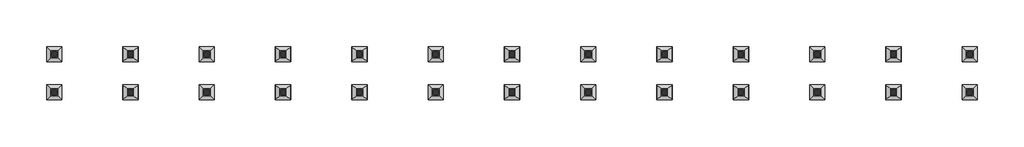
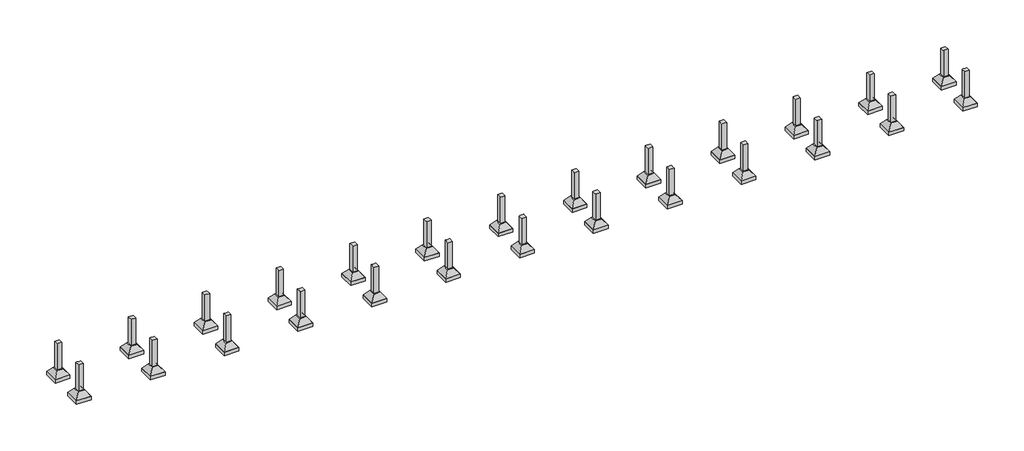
# One storey: 26 columns, 26 fasteners.
"""IFC4 building model written with IfcOpenShell, lengths in millimetres."""

from ifc_helpers import new_model, si_unit, origin, place, context, project, spatial, faceted_brep, transform, mapped, element, save
from components import s1_263c41ab

model = new_model("IFC4")

# Units and contexts
model_context = context("Model", 3, world=origin())
ifc_project = project(units=[si_unit("LENGTHUNIT", "METRE", prefix="MILLI")], contexts=[model_context])

# Site, building, storey
site = spatial("IfcSite", under=ifc_project)
building = spatial("IfcBuilding", under=site)
storey = spatial("IfcBuildingStorey", under=building, Name="FUNDAÇÃO", Elevation=0.0)

# Columns
placement = place(None, origin())
element("IfcColumn", 1, ObjectType="TQS - Pilar retangular : 25,0x25,0", at=placement, inside=storey, context=model_context, shape_type="Brep", body=[
    faceted_brep([(-3786.795675, 1437.2017038, 0.0), (-3786.795675, 1187.2017038, 0.0), (-4036.795675, 1187.2017038, 0.0), (-4036.795675, 1437.2017038, 0.0), (-3786.795675, 1437.2017038, 1500.0), (-3786.795675, 1387.2017038, 1500.0), (-3786.795675, 1237.2017038, 1500.0), (-3786.795675, 1187.2017038, 1500.0), (-3836.795675, 1187.2017038, 1500.0), (-3986.795675, 1187.2017038, 1500.0), (-4036.795675, 1187.2017038, 1500.0), (-4036.795675, 1437.2017038, 1500.0)], [[[0, 1, 2, 3]], [[4, 5, 6, 7, 1, 0]], [[7, 8, 9, 10, 2, 1]], [[10, 11, 3, 2]], [[11, 4, 0, 3]], [[4, 11, 10, 9, 8, 7, 6, 5]]]),
])
element("IfcColumn", 2, ObjectType="TQS - Pilar retangular : 25,0x25,0", at=placement, inside=storey, context=model_context, shape_type="Brep", body=[
    faceted_brep([(-3786.795675, -562.7982962, 0.0), (-3786.795675, -812.7982962, 0.0), (-4036.795675, -812.7982962, 0.0), (-4036.795675, -562.7982962, 0.0), (-3786.795675, -562.7982962, 1500.0), (-3786.795675, -612.7982962, 1500.0), (-3786.795675, -762.7982962, 1500.0), (-3786.795675, -812.7982962, 1500.0), (-4036.795675, -812.7982962, 1500.0), (-4036.795675, -562.7982962, 1500.0), (-3986.795675, -562.7982962, 1500.0), (-3836.795675, -562.7982962, 1500.0)], [[[0, 1, 2, 3]], [[4, 5, 6, 7, 1, 0]], [[7, 8, 2, 1]], [[8, 9, 3, 2]], [[9, 10, 11, 4, 0, 3]], [[4, 11, 10, 9, 8, 7, 6, 5]]]),
])
element("IfcColumn", 3, ObjectType="TQS - Pilar retangular : 25,0x25,0", at=placement, inside=storey, context=model_context, shape_type="Brep", body=[
    faceted_brep([(213.204325, 1437.2017038, 0.0), (213.204325, 1187.2017038, 0.0), (-36.795675, 1187.2017038, 0.0), (-36.795675, 1437.2017038, 0.0), (213.204325, 1437.2017038, 1500.0), (213.204325, 1387.2017038, 1500.0), (213.204325, 1237.2017038, 1500.0), (213.204325, 1187.2017038, 1500.0), (163.204325, 1187.2017038, 1500.0), (13.204325, 1187.2017038, 1500.0), (-36.795675, 1187.2017038, 1500.0), (-36.795675, 1237.2017038, 1500.0), (-36.795675, 1387.2017038, 1500.0), (-36.795675, 1437.2017038, 1500.0)], [[[0, 1, 2, 3]], [[4, 5, 6, 7, 1, 0]], [[7, 8, 9, 10, 2, 1]], [[10, 11, 12, 13, 3, 2]], [[13, 4, 0, 3]], [[4, 13, 12, 11, 10, 9, 8, 7, 6, 5]]]),
])
element("IfcColumn", 4, ObjectType="TQS - Pilar retangular : 25,0x25,0", at=placement, inside=storey, context=model_context, shape_type="Brep", body=[
    faceted_brep([(213.204325, -562.7982962, 0.0), (213.204325, -812.7982962, 0.0), (-36.795675, -812.7982962, 0.0), (-36.795675, -562.7982962, 0.0), (213.204325, -562.7982962, 1500.0), (213.204325, -612.7982962, 1500.0), (213.204325, -762.7982962, 1500.0), (213.204325, -812.7982962, 1500.0), (-36.795675, -812.7982962, 1500.0), (-36.795675, -762.7982962, 1500.0), (-36.795675, -612.7982962, 1500.0), (-36.795675, -562.7982962, 1500.0), (13.204325, -562.7982962, 1500.0), (163.204325, -562.7982962, 1500.0)], [[[0, 1, 2, 3]], [[4, 5, 6, 7, 1, 0]], [[7, 8, 2, 1]], [[8, 9, 10, 11, 3, 2]], [[11, 12, 13, 4, 0, 3]], [[4, 13, 12, 11, 10, 9, 8, 7, 6, 5]]]),
])
element("IfcColumn", 5, ObjectType="TQS - Pilar retangular : 25,0x25,0", at=placement, inside=storey, context=model_context, shape_type="Brep", body=[
    faceted_brep([(4213.204325, 1437.2017038, 0.0), (4213.204325, 1187.2017038, 0.0), (3963.204325, 1187.2017038, 0.0), (3963.204325, 1437.2017038, 0.0), (4213.204325, 1437.2017038, 1500.0), (4213.204325, 1387.2017038, 1500.0), (4213.204325, 1237.2017038, 1500.0), (4213.204325, 1187.2017038, 1500.0), (4163.204325, 1187.2017038, 1500.0), (4013.204325, 1187.2017038, 1500.0), (3963.204325, 1187.2017038, 1500.0), (3963.204325, 1237.2017038, 1500.0), (3963.204325, 1387.2017038, 1500.0), (3963.204325, 1437.2017038, 1500.0)], [[[0, 1, 2, 3]], [[4, 5, 6, 7, 1, 0]], [[7, 8, 9, 10, 2, 1]], [[10, 11, 12, 13, 3, 2]], [[13, 4, 0, 3]], [[4, 13, 12, 11, 10, 9, 8, 7, 6, 5]]]),
])
element("IfcColumn", 6, ObjectType="TQS - Pilar retangular : 25,0x25,0", at=placement, inside=storey, context=model_context, shape_type="Brep", body=[
    faceted_brep([(4213.204325, -562.7982962, 0.0), (4213.204325, -812.7982962, 0.0), (3963.204325, -812.7982962, 0.0), (3963.204325, -562.7982962, 0.0), (4213.204325, -562.7982962, 1500.0), (4213.204325, -612.7982962, 1500.0), (4213.204325, -762.7982962, 1500.0), (4213.204325, -812.7982962, 1500.0), (3963.204325, -812.7982962, 1500.0), (3963.204325, -762.7982962, 1500.0), (3963.204325, -612.7982962, 1500.0), (3963.204325, -562.7982962, 1500.0), (4013.204325, -562.7982962, 1500.0), (4163.204325, -562.7982962, 1500.0)], [[[0, 1, 2, 3]], [[4, 5, 6, 7, 1, 0]], [[7, 8, 2, 1]], [[8, 9, 10, 11, 3, 2]], [[11, 12, 13, 4, 0, 3]], [[4, 13, 12, 11, 10, 9, 8, 7, 6, 5]]]),
])
element("IfcColumn", 7, ObjectType="TQS - Pilar retangular : 25,0x25,0", at=placement, inside=storey, context=model_context, shape_type="Brep", body=[
    faceted_brep([(8213.204325, 1437.2017038, 0.0), (8213.204325, 1187.2017038, 0.0), (7963.204325, 1187.2017038, 0.0), (7963.204325, 1437.2017038, 0.0), (8213.204325, 1437.2017038, 1500.0), (8213.204325, 1387.2017038, 1500.0), (8213.204325, 1237.2017038, 1500.0), (8213.204325, 1187.2017038, 1500.0), (8163.204325, 1187.2017038, 1500.0), (8013.204325, 1187.2017038, 1500.0), (7963.204325, 1187.2017038, 1500.0), (7963.204325, 1237.2017038, 1500.0), (7963.204325, 1387.2017038, 1500.0), (7963.204325, 1437.2017038, 1500.0)], [[[0, 1, 2, 3]], [[4, 5, 6, 7, 1, 0]], [[7, 8, 9, 10, 2, 1]], [[10, 11, 12, 13, 3, 2]], [[13, 4, 0, 3]], [[4, 13, 12, 11, 10, 9, 8, 7, 6, 5]]]),
])
element("IfcColumn", 8, ObjectType="TQS - Pilar retangular : 25,0x25,0", at=placement, inside=storey, context=model_context, shape_type="Brep", body=[
    faceted_brep([(8213.204325, -562.7982962, 0.0), (8213.204325, -812.7982962, 0.0), (7963.204325, -812.7982962, 0.0), (7963.204325, -562.7982962, 0.0), (8213.204325, -562.7982962, 1500.0), (8213.204325, -612.7982962, 1500.0), (8213.204325, -762.7982962, 1500.0), (8213.204325, -812.7982962, 1500.0), (7963.204325, -812.7982962, 1500.0), (7963.204325, -762.7982962, 1500.0), (7963.204325, -612.7982962, 1500.0), (7963.204325, -562.7982962, 1500.0), (8013.204325, -562.7982962, 1500.0), (8163.204325, -562.7982962, 1500.0)], [[[0, 1, 2, 3]], [[4, 5, 6, 7, 1, 0]], [[7, 8, 2, 1]], [[8, 9, 10, 11, 3, 2]], [[11, 12, 13, 4, 0, 3]], [[4, 13, 12, 11, 10, 9, 8, 7, 6, 5]]]),
])
element("IfcColumn", 9, ObjectType="TQS - Pilar retangular : 25,0x25,0", at=placement, inside=storey, context=model_context, shape_type="Brep", body=[
    faceted_brep([(12213.204325, 1437.2017038, 0.0), (12213.204325, 1187.2017038, 0.0), (11963.204325, 1187.2017038, 0.0), (11963.204325, 1437.2017038, 0.0), (12213.204325, 1437.2017038, 1500.0), (12213.204325, 1387.2017038, 1500.0), (12213.204325, 1237.2017038, 1500.0), (12213.204325, 1187.2017038, 1500.0), (12163.204325, 1187.2017038, 1500.0), (12013.204325, 1187.2017038, 1500.0), (11963.204325, 1187.2017038, 1500.0), (11963.204325, 1237.2017038, 1500.0), (11963.204325, 1387.2017038, 1500.0), (11963.204325, 1437.2017038, 1500.0)], [[[0, 1, 2, 3]], [[4, 5, 6, 7, 1, 0]], [[7, 8, 9, 10, 2, 1]], [[10, 11, 12, 13, 3, 2]], [[13, 4, 0, 3]], [[4, 13, 12, 11, 10, 9, 8, 7, 6, 5]]]),
])
element("IfcColumn", 10, ObjectType="TQS - Pilar retangular : 25,0x25,0", at=placement, inside=storey, context=model_context, shape_type="Brep", body=[
    faceted_brep([(12213.204325, -562.7982962, 0.0), (12213.204325, -812.7982962, 0.0), (11963.204325, -812.7982962, 0.0), (11963.204325, -562.7982962, 0.0), (12213.204325, -562.7982962, 1500.0), (12213.204325, -612.7982962, 1500.0), (12213.204325, -762.7982962, 1500.0), (12213.204325, -812.7982962, 1500.0), (11963.204325, -812.7982962, 1500.0), (11963.204325, -762.7982962, 1500.0), (11963.204325, -612.7982962, 1500.0), (11963.204325, -562.7982962, 1500.0), (12013.204325, -562.7982962, 1500.0), (12163.204325, -562.7982962, 1500.0)], [[[0, 1, 2, 3]], [[4, 5, 6, 7, 1, 0]], [[7, 8, 2, 1]], [[8, 9, 10, 11, 3, 2]], [[11, 12, 13, 4, 0, 3]], [[4, 13, 12, 11, 10, 9, 8, 7, 6, 5]]]),
])
element("IfcColumn", 11, ObjectType="TQS - Pilar retangular : 25,0x25,0", at=placement, inside=storey, context=model_context, shape_type="Brep", body=[
    faceted_brep([(16213.204325, 1437.2017038, 0.0), (16213.204325, 1187.2017038, 0.0), (15963.204325, 1187.2017038, 0.0), (15963.204325, 1437.2017038, 0.0), (16213.204325, 1437.2017038, 1500.0), (16213.204325, 1387.2017038, 1500.0), (16213.204325, 1237.2017038, 1500.0), (16213.204325, 1187.2017038, 1500.0), (16163.204325, 1187.2017038, 1500.0), (16013.204325, 1187.2017038, 1500.0), (15963.204325, 1187.2017038, 1500.0), (15963.204325, 1237.2017038, 1500.0), (15963.204325, 1387.2017038, 1500.0), (15963.204325, 1437.2017038, 1500.0)], [[[0, 1, 2, 3]], [[4, 5, 6, 7, 1, 0]], [[7, 8, 9, 10, 2, 1]], [[10, 11, 12, 13, 3, 2]], [[13, 4, 0, 3]], [[4, 13, 12, 11, 10, 9, 8, 7, 6, 5]]]),
])
element("IfcColumn", 12, ObjectType="TQS - Pilar retangular : 25,0x25,0", at=placement, inside=storey, context=model_context, shape_type="Brep", body=[
    faceted_brep([(16213.204325, -562.7982962, 0.0), (16213.204325, -812.7982962, 0.0), (15963.204325, -812.7982962, 0.0), (15963.204325, -562.7982962, 0.0), (16213.204325, -562.7982962, 1500.0), (16213.204325, -612.7982962, 1500.0), (16213.204325, -762.7982962, 1500.0), (16213.204325, -812.7982962, 1500.0), (15963.204325, -812.7982962, 1500.0), (15963.204325, -762.7982962, 1500.0), (15963.204325, -612.7982962, 1500.0), (15963.204325, -562.7982962, 1500.0), (16013.204325, -562.7982962, 1500.0), (16163.204325, -562.7982962, 1500.0)], [[[0, 1, 2, 3]], [[4, 5, 6, 7, 1, 0]], [[7, 8, 2, 1]], [[8, 9, 10, 11, 3, 2]], [[11, 12, 13, 4, 0, 3]], [[4, 13, 12, 11, 10, 9, 8, 7, 6, 5]]]),
])
element("IfcColumn", 13, ObjectType="TQS - Pilar retangular : 25,0x25,0", at=placement, inside=storey, context=model_context, shape_type="Brep", body=[
    faceted_brep([(20213.204325, 1437.2017038, 0.0), (20213.204325, 1187.2017038, 0.0), (19963.204325, 1187.2017038, 0.0), (19963.204325, 1437.2017038, 0.0), (20213.204325, 1437.2017038, 1500.0), (20213.204325, 1387.2017038, 1500.0), (20213.204325, 1237.2017038, 1500.0), (20213.204325, 1187.2017038, 1500.0), (20163.204325, 1187.2017038, 1500.0), (20013.204325, 1187.2017038, 1500.0), (19963.204325, 1187.2017038, 1500.0), (19963.204325, 1237.2017038, 1500.0), (19963.204325, 1387.2017038, 1500.0), (19963.204325, 1437.2017038, 1500.0)], [[[0, 1, 2, 3]], [[4, 5, 6, 7, 1, 0]], [[7, 8, 9, 10, 2, 1]], [[10, 11, 12, 13, 3, 2]], [[13, 4, 0, 3]], [[4, 13, 12, 11, 10, 9, 8, 7, 6, 5]]]),
])
element("IfcColumn", 14, ObjectType="TQS - Pilar retangular : 25,0x25,0", at=placement, inside=storey, context=model_context, shape_type="Brep", body=[
    faceted_brep([(20213.204325, -562.7982962, 0.0), (20213.204325, -812.7982962, 0.0), (19963.204325, -812.7982962, 0.0), (19963.204325, -562.7982962, 0.0), (20213.204325, -562.7982962, 1500.0), (20213.204325, -612.6028921, 1500.0), (20213.204325, -762.6030753, 1500.0), (20213.204325, -812.7982962, 1500.0), (19963.204325, -812.7982962, 1500.0), (19963.204325, -762.7982962, 1500.0), (19963.204325, -612.7982962, 1500.0), (19963.204325, -562.7982962, 1500.0), (20013.204325, -562.7982962, 1500.0), (20163.204325, -562.7982962, 1500.0)], [[[0, 1, 2, 3]], [[4, 5, 6, 7, 1, 0]], [[7, 8, 2, 1]], [[8, 9, 10, 11, 3, 2]], [[11, 12, 13, 4, 0, 3]], [[4, 13, 12, 11, 10, 9, 8, 7, 6, 5]]]),
])
element("IfcColumn", 15, ObjectType="TQS - Pilar retangular : 25,0x25,0", at=placement, inside=storey, context=model_context, shape_type="Brep", body=[
    faceted_brep([(24213.204325, 1437.2017038, 0.0), (24213.204325, 1187.2017038, 0.0), (23963.204325, 1187.2017038, 0.0), (23963.204325, 1437.2017038, 0.0), (24213.204325, 1437.2017038, 1500.0), (24213.204325, 1387.2017038, 1500.0), (24213.204325, 1237.2017038, 1500.0), (24213.204325, 1187.2017038, 1500.0), (24163.204325, 1187.2017038, 1500.0), (24013.204325, 1187.2017038, 1500.0), (23963.204325, 1187.2017038, 1500.0), (23963.204325, 1237.2017038, 1500.0), (23963.204325, 1387.2017038, 1500.0), (23963.204325, 1437.2017038, 1500.0)], [[[0, 1, 2, 3]], [[4, 5, 6, 7, 1, 0]], [[7, 8, 9, 10, 2, 1]], [[10, 11, 12, 13, 3, 2]], [[13, 4, 0, 3]], [[4, 13, 12, 11, 10, 9, 8, 7, 6, 5]]]),
])
element("IfcColumn", 16, ObjectType="TQS - Pilar retangular : 25,0x25,0", at=placement, inside=storey, context=model_context, shape_type="Brep", body=[
    faceted_brep([(24213.204325, -562.7982962, 0.0), (24213.204325, -812.7982962, 0.0), (23963.204325, -812.7982962, 0.0), (23963.204325, -562.7982962, 0.0), (24213.204325, -562.7982962, 1500.0), (24213.204325, -606.3528921, 1500.0), (24213.204325, -756.3530753, 1500.0), (24213.204325, -812.7982962, 1500.0), (23963.204325, -812.7982962, 1500.0), (23963.204325, -756.7437003, 1500.0), (23963.204325, -606.7435171, 1500.0), (23963.204325, -562.7982962, 1500.0), (24013.204325, -562.7982962, 1500.0), (24163.204325, -562.7982962, 1500.0)], [[[0, 1, 2, 3]], [[4, 5, 6, 7, 1, 0]], [[7, 8, 2, 1]], [[8, 9, 10, 11, 3, 2]], [[11, 12, 13, 4, 0, 3]], [[4, 13, 12, 11, 10, 9, 8, 7, 6, 5]]]),
])
element("IfcColumn", 17, ObjectType="TQS - Pilar retangular : 25,0x25,0", at=placement, inside=storey, context=model_context, shape_type="Brep", body=[
    faceted_brep([(28213.204325, 1437.2017038, 0.0), (28213.204325, 1187.2017038, 0.0), (27963.204325, 1187.2017038, 0.0), (27963.204325, 1437.2017038, 0.0), (28213.204325, 1437.2017038, 1500.0), (28213.204325, 1387.2017038, 1500.0), (28213.204325, 1237.2017038, 1500.0), (28213.204325, 1187.2017038, 1500.0), (28163.204325, 1187.2017038, 1500.0), (28013.204325, 1187.2017038, 1500.0), (27963.204325, 1187.2017038, 1500.0), (27963.204325, 1237.2017038, 1500.0), (27963.204325, 1387.2017038, 1500.0), (27963.204325, 1437.2017038, 1500.0)], [[[0, 1, 2, 3]], [[4, 5, 6, 7, 1, 0]], [[7, 8, 9, 10, 2, 1]], [[10, 11, 12, 13, 3, 2]], [[13, 4, 0, 3]], [[4, 13, 12, 11, 10, 9, 8, 7, 6, 5]]]),
])
element("IfcColumn", 18, ObjectType="TQS - Pilar retangular : 25,0x25,0", at=placement, inside=storey, context=model_context, shape_type="Brep", body=[
    faceted_brep([(28213.204325, -562.7982962, 0.0), (28213.204325, -812.7982962, 0.0), (27963.204325, -812.7982962, 0.0), (27963.204325, -562.7982962, 0.0), (28213.204325, -562.7982962, 1500.0), (28213.204325, -600.1028921, 1500.0), (28213.204325, -750.1030753, 1500.0), (28213.204325, -812.7982962, 1500.0), (27963.204325, -812.7982962, 1500.0), (27963.204325, -750.4937003, 1500.0), (27963.204325, -600.4935171, 1500.0), (27963.204325, -562.7982962, 1500.0), (28013.204325, -562.7982962, 1500.0), (28163.204325, -562.7982962, 1500.0)], [[[0, 1, 2, 3]], [[4, 5, 6, 7, 1, 0]], [[7, 8, 2, 1]], [[8, 9, 10, 11, 3, 2]], [[11, 12, 13, 4, 0, 3]], [[4, 13, 12, 11, 10, 9, 8, 7, 6, 5]]]),
])
element("IfcColumn", 19, ObjectType="TQS - Pilar retangular : 25,0x25,0", at=placement, inside=storey, context=model_context, shape_type="Brep", body=[
    faceted_brep([(32213.204325, 1437.2017038, 0.0), (32213.204325, 1187.2017038, 0.0), (31963.204325, 1187.2017038, 0.0), (31963.204325, 1437.2017038, 0.0), (32213.204325, 1437.2017038, 1500.0), (32213.204325, 1387.2017038, 1500.0), (32213.204325, 1237.2017038, 1500.0), (32213.204325, 1187.2017038, 1500.0), (32163.204325, 1187.2017038, 1500.0), (32013.204325, 1187.2017038, 1500.0), (31963.204325, 1187.2017038, 1500.0), (31963.204325, 1237.2017038, 1500.0), (31963.204325, 1387.2017038, 1500.0), (31963.204325, 1437.2017038, 1500.0)], [[[0, 1, 2, 3]], [[4, 5, 6, 7, 1, 0]], [[7, 8, 9, 10, 2, 1]], [[10, 11, 12, 13, 3, 2]], [[13, 4, 0, 3]], [[4, 13, 12, 11, 10, 9, 8, 7, 6, 5]]]),
])
element("IfcColumn", 20, ObjectType="TQS - Pilar retangular : 25,0x25,0", at=placement, inside=storey, context=model_context, shape_type="Brep", body=[
    faceted_brep([(32213.204325, -562.7982962, 0.0), (32213.204325, -812.7982962, 0.0), (31963.204325, -812.7982962, 0.0), (31963.204325, -562.7982962, 0.0), (32213.204325, -562.7982962, 1500.0), (32213.204325, -594.0482962, 1500.0), (32213.204325, -744.0482962, 1500.0), (32213.204325, -812.7982962, 1500.0), (31963.204325, -812.7982962, 1500.0), (31963.204325, -744.2437003, 1500.0), (31963.204325, -594.2435171, 1500.0), (31963.204325, -562.7982962, 1500.0), (32013.204325, -562.7982962, 1500.0), (32163.204325, -562.7982962, 1500.0)], [[[0, 1, 2, 3]], [[4, 5, 6, 7, 1, 0]], [[7, 8, 2, 1]], [[8, 9, 10, 11, 3, 2]], [[11, 12, 13, 4, 0, 3]], [[4, 13, 12, 11, 10, 9, 8, 7, 6, 5]]]),
])
element("IfcColumn", 21, ObjectType="TQS - Pilar retangular : 25,0x25,0", at=placement, inside=storey, context=model_context, shape_type="Brep", body=[
    faceted_brep([(36213.204325, 1437.2017038, 0.0), (36213.204325, 1187.2017038, 0.0), (35963.204325, 1187.2017038, 0.0), (35963.204325, 1437.2017038, 0.0), (36213.204325, 1437.2017038, 1500.0), (36213.204325, 1387.2017038, 1500.0), (36213.204325, 1237.2017038, 1500.0), (36213.204325, 1187.2017038, 1500.0), (36163.204325, 1187.2017038, 1500.0), (36013.204325, 1187.2017038, 1500.0), (35963.204325, 1187.2017038, 1500.0), (35963.204325, 1237.2017038, 1500.0), (35963.204325, 1387.2017038, 1500.0), (35963.204325, 1437.2017038, 1500.0)], [[[0, 1, 2, 3]], [[4, 5, 6, 7, 1, 0]], [[7, 8, 9, 10, 2, 1]], [[10, 11, 12, 13, 3, 2]], [[13, 4, 0, 3]], [[4, 13, 12, 11, 10, 9, 8, 7, 6, 5]]]),
])
element("IfcColumn", 22, ObjectType="TQS - Pilar retangular : 25,0x25,0", at=placement, inside=storey, context=model_context, shape_type="Brep", body=[
    faceted_brep([(36213.204325, -562.7982962, 0.0), (36213.204325, -812.7982962, 0.0), (35963.204325, -812.7982962, 0.0), (35963.204325, -562.7982962, 0.0), (36213.204325, -562.7982962, 1500.0), (36213.204325, -594.0482962, 1500.0), (36213.204325, -744.0482962, 1500.0), (36213.204325, -812.7982962, 1500.0), (35963.204325, -812.7982962, 1500.0), (35963.204325, -744.0482962, 1500.0), (35963.204325, -594.0482962, 1500.0), (35963.204325, -562.7982962, 1500.0), (36013.204325, -562.7982962, 1500.0), (36163.204325, -562.7982962, 1500.0)], [[[0, 1, 2, 3]], [[4, 5, 6, 7, 1, 0]], [[7, 8, 2, 1]], [[8, 9, 10, 11, 3, 2]], [[11, 12, 13, 4, 0, 3]], [[4, 13, 12, 11, 10, 9, 8, 7, 6, 5]]]),
])
element("IfcColumn", 23, ObjectType="TQS - Pilar retangular : 25,0x25,0", at=placement, inside=storey, context=model_context, shape_type="Brep", body=[
    faceted_brep([(40213.204325, 1437.2017038, 0.0), (40213.204325, 1187.2017038, 0.0), (39963.204325, 1187.2017038, 0.0), (39963.204325, 1437.2017038, 0.0), (40213.204325, 1437.2017038, 1500.0), (40213.204325, 1387.2017038, 1500.0), (40213.204325, 1237.2017038, 1500.0), (40213.204325, 1187.2017038, 1500.0), (40163.204325, 1187.2017038, 1500.0), (40013.204325, 1187.2017038, 1500.0), (39963.204325, 1187.2017038, 1500.0), (39963.204325, 1237.2017038, 1500.0), (39963.204325, 1387.2017038, 1500.0), (39963.204325, 1437.2017038, 1500.0)], [[[0, 1, 2, 3]], [[4, 5, 6, 7, 1, 0]], [[7, 8, 9, 10, 2, 1]], [[10, 11, 12, 13, 3, 2]], [[13, 4, 0, 3]], [[4, 13, 12, 11, 10, 9, 8, 7, 6, 5]]]),
])
element("IfcColumn", 24, ObjectType="TQS - Pilar retangular : 25,0x25,0", at=placement, inside=storey, context=model_context, shape_type="Brep", body=[
    faceted_brep([(40213.204325, -562.7982962, 0.0), (40213.204325, -812.7982962, 0.0), (39963.204325, -812.7982962, 0.0), (39963.204325, -562.7982962, 0.0), (40213.204325, -562.7982962, 1500.0), (40213.204325, -594.0482962, 1500.0), (40213.204325, -744.0482962, 1500.0), (40213.204325, -812.7982962, 1500.0), (39963.204325, -812.7982962, 1500.0), (39963.204325, -744.0482962, 1500.0), (39963.204325, -594.0482962, 1500.0), (39963.204325, -562.7982962, 1500.0), (40013.204325, -562.7982962, 1500.0), (40163.204325, -562.7982962, 1500.0)], [[[0, 1, 2, 3]], [[4, 5, 6, 7, 1, 0]], [[7, 8, 2, 1]], [[8, 9, 10, 11, 3, 2]], [[11, 12, 13, 4, 0, 3]], [[4, 13, 12, 11, 10, 9, 8, 7, 6, 5]]]),
])
element("IfcColumn", 25, ObjectType="TQS - Pilar retangular : 25,0x25,0", at=placement, inside=storey, context=model_context, shape_type="Brep", body=[
    faceted_brep([(44213.204325, 1437.2017038, 0.0), (44213.204325, 1187.2017038, 0.0), (43963.204325, 1187.2017038, 0.0), (43963.204325, 1437.2017038, 0.0), (44213.204325, 1437.2017038, 1500.0), (44213.204325, 1187.2017038, 1500.0), (44163.204325, 1187.2017038, 1500.0), (44013.204325, 1187.2017038, 1500.0), (43963.204325, 1187.2017038, 1500.0), (43963.204325, 1237.2017038, 1500.0), (43963.204325, 1387.2017038, 1500.0), (43963.204325, 1437.2017038, 1500.0)], [[[0, 1, 2, 3]], [[4, 5, 1, 0]], [[5, 6, 7, 8, 2, 1]], [[8, 9, 10, 11, 3, 2]], [[11, 4, 0, 3]], [[4, 11, 10, 9, 8, 7, 6, 5]]]),
])
element("IfcColumn", 26, ObjectType="TQS - Pilar retangular : 25,0x25,0", at=placement, inside=storey, context=model_context, shape_type="Brep", body=[
    faceted_brep([(44213.204325, -562.7982962, 0.0), (44213.204325, -812.7982962, 0.0), (43963.204325, -812.7982962, 0.0), (43963.204325, -562.7982962, 0.0), (44213.204325, -562.7982962, 1500.0), (44213.204325, -812.7982962, 1500.0), (43963.204325, -812.7982962, 1500.0), (43963.204325, -744.0482962, 1500.0), (43963.204325, -594.0482962, 1500.0), (43963.204325, -562.7982962, 1500.0), (44013.204325, -562.7982962, 1500.0), (44163.204325, -562.7982962, 1500.0)], [[[0, 1, 2, 3]], [[4, 5, 1, 0]], [[5, 6, 2, 1]], [[6, 7, 8, 9, 3, 2]], [[9, 10, 11, 4, 0, 3]], [[4, 11, 10, 9, 8, 7, 6, 5]]]),
])

# Fasteners
s1_shape = s1_263c41ab(model_context)
element("IfcFastener", 27, ObjectType="TQS - Sapata : S1", at=placement, inside=storey, context=model_context, shape_type="MappedRepresentation", body=[
    mapped(s1_shape, transform((-3711.795675, 1512.2017038, 0.0), x_axis=(1.0, 0.0, 0.0), y_axis=(0.0, 1.0, 0.0), z_axis=(0.0, 0.0, 1.0))),
])
element("IfcFastener", 28, ObjectType="TQS - Sapata : S10", at=placement, inside=storey, context=model_context, shape_type="MappedRepresentation", body=[
    mapped(s1_shape, transform((32288.204325, 1512.2017038, 0.0), x_axis=(1.0, 0.0, 0.0), y_axis=(0.0, 1.0, 0.0), z_axis=(0.0, 0.0, 1.0))),
])
element("IfcFastener", 29, ObjectType="TQS - Sapata : S11", at=placement, inside=storey, context=model_context, shape_type="MappedRepresentation", body=[
    mapped(s1_shape, transform((36288.204325, 1512.2017038, 0.0), x_axis=(1.0, 0.0, 0.0), y_axis=(0.0, 1.0, 0.0), z_axis=(0.0, 0.0, 1.0))),
])
element("IfcFastener", 30, ObjectType="TQS - Sapata : S12", at=placement, inside=storey, context=model_context, shape_type="MappedRepresentation", body=[
    mapped(s1_shape, transform((40288.204325, 1512.2017038, 0.0), x_axis=(1.0, 0.0, 0.0), y_axis=(0.0, 1.0, 0.0), z_axis=(0.0, 0.0, 1.0))),
])
element("IfcFastener", 31, ObjectType="TQS - Sapata : S13", at=placement, inside=storey, context=model_context, shape_type="MappedRepresentation", body=[
    mapped(s1_shape, transform((44288.204325, 1512.2017038, 0.0), x_axis=(1.0, 0.0, 0.0), y_axis=(0.0, 1.0, 0.0), z_axis=(0.0, 0.0, 1.0))),
])
element("IfcFastener", 32, ObjectType="TQS - Sapata : S14", at=placement, inside=storey, context=model_context, shape_type="MappedRepresentation", body=[
    mapped(s1_shape, transform((-3711.795675, -487.7982962, 0.0), x_axis=(1.0, 0.0, 0.0), y_axis=(0.0, 1.0, 0.0), z_axis=(0.0, 0.0, 1.0))),
])
element("IfcFastener", 33, ObjectType="TQS - Sapata : S15", at=placement, inside=storey, context=model_context, shape_type="MappedRepresentation", body=[
    mapped(s1_shape, transform((288.204325, -487.7982962, 0.0), x_axis=(1.0, 0.0, 0.0), y_axis=(0.0, 1.0, 0.0), z_axis=(0.0, 0.0, 1.0))),
])
element("IfcFastener", 34, ObjectType="TQS - Sapata : S16", at=placement, inside=storey, context=model_context, shape_type="MappedRepresentation", body=[
    mapped(s1_shape, transform((4288.204325, -487.7982962, 0.0), x_axis=(1.0, 0.0, 0.0), y_axis=(0.0, 1.0, 0.0), z_axis=(0.0, 0.0, 1.0))),
])
element("IfcFastener", 35, ObjectType="TQS - Sapata : S17", at=placement, inside=storey, context=model_context, shape_type="MappedRepresentation", body=[
    mapped(s1_shape, transform((8288.204325, -487.7982962, 0.0), x_axis=(1.0, 0.0, 0.0), y_axis=(0.0, 1.0, 0.0), z_axis=(0.0, 0.0, 1.0))),
])
element("IfcFastener", 36, ObjectType="TQS - Sapata : S18", at=placement, inside=storey, context=model_context, shape_type="MappedRepresentation", body=[
    mapped(s1_shape, transform((12288.204325, -487.7982962, 0.0), x_axis=(1.0, 0.0, 0.0), y_axis=(0.0, 1.0, 0.0), z_axis=(0.0, 0.0, 1.0))),
])
element("IfcFastener", 37, ObjectType="TQS - Sapata : S19", at=placement, inside=storey, context=model_context, shape_type="MappedRepresentation", body=[
    mapped(s1_shape, transform((16288.204325, -487.7982962, 0.0), x_axis=(1.0, 0.0, 0.0), y_axis=(0.0, 1.0, 0.0), z_axis=(0.0, 0.0, 1.0))),
])
element("IfcFastener", 38, ObjectType="TQS - Sapata : S2", at=placement, inside=storey, context=model_context, shape_type="MappedRepresentation", body=[
    mapped(s1_shape, transform((288.204325, 1512.2017038, 0.0), x_axis=(1.0, 0.0, 0.0), y_axis=(0.0, 1.0, 0.0), z_axis=(0.0, 0.0, 1.0))),
])
element("IfcFastener", 39, ObjectType="TQS - Sapata : S20", at=placement, inside=storey, context=model_context, shape_type="MappedRepresentation", body=[
    mapped(s1_shape, transform((20288.204325, -487.7982962, 0.0), x_axis=(1.0, 0.0, 0.0), y_axis=(0.0, 1.0, 0.0), z_axis=(0.0, 0.0, 1.0))),
])
element("IfcFastener", 40, ObjectType="TQS - Sapata : S21", at=placement, inside=storey, context=model_context, shape_type="MappedRepresentation", body=[
    mapped(s1_shape, transform((24288.204325, -487.7982962, 0.0), x_axis=(1.0, 0.0, 0.0), y_axis=(0.0, 1.0, 0.0), z_axis=(0.0, 0.0, 1.0))),
])
element("IfcFastener", 41, ObjectType="TQS - Sapata : S22", at=placement, inside=storey, context=model_context, shape_type="MappedRepresentation", body=[
    mapped(s1_shape, transform((28288.204325, -487.7982962, 0.0), x_axis=(1.0, 0.0, 0.0), y_axis=(0.0, 1.0, 0.0), z_axis=(0.0, 0.0, 1.0))),
])
element("IfcFastener", 42, ObjectType="TQS - Sapata : S23", at=placement, inside=storey, context=model_context, shape_type="MappedRepresentation", body=[
    mapped(s1_shape, transform((32288.204325, -487.7982962, 0.0), x_axis=(1.0, 0.0, 0.0), y_axis=(0.0, 1.0, 0.0), z_axis=(0.0, 0.0, 1.0))),
])
element("IfcFastener", 43, ObjectType="TQS - Sapata : S24", at=placement, inside=storey, context=model_context, shape_type="MappedRepresentation", body=[
    mapped(s1_shape, transform((36288.204325, -487.7982962, 0.0), x_axis=(1.0, 0.0, 0.0), y_axis=(0.0, 1.0, 0.0), z_axis=(0.0, 0.0, 1.0))),
])
element("IfcFastener", 44, ObjectType="TQS - Sapata : S25", at=placement, inside=storey, context=model_context, shape_type="MappedRepresentation", body=[
    mapped(s1_shape, transform((40288.204325, -487.7982962, 0.0), x_axis=(1.0, 0.0, 0.0), y_axis=(0.0, 1.0, 0.0), z_axis=(0.0, 0.0, 1.0))),
])
element("IfcFastener", 45, ObjectType="TQS - Sapata : S26", at=placement, inside=storey, context=model_context, shape_type="MappedRepresentation", body=[
    mapped(s1_shape, transform((44288.204325, -487.7982962, 0.0), x_axis=(1.0, 0.0, 0.0), y_axis=(0.0, 1.0, 0.0), z_axis=(0.0, 0.0, 1.0))),
])
element("IfcFastener", 46, ObjectType="TQS - Sapata : S3", at=placement, inside=storey, context=model_context, shape_type="MappedRepresentation", body=[
    mapped(s1_shape, transform((4288.204325, 1512.2017038, 0.0), x_axis=(1.0, 0.0, 0.0), y_axis=(0.0, 1.0, 0.0), z_axis=(0.0, 0.0, 1.0))),
])
element("IfcFastener", 47, ObjectType="TQS - Sapata : S4", at=placement, inside=storey, context=model_context, shape_type="MappedRepresentation", body=[
    mapped(s1_shape, transform((8288.204325, 1512.2017038, 0.0), x_axis=(1.0, 0.0, 0.0), y_axis=(0.0, 1.0, 0.0), z_axis=(0.0, 0.0, 1.0))),
])
element("IfcFastener", 48, ObjectType="TQS - Sapata : S5", at=placement, inside=storey, context=model_context, shape_type="MappedRepresentation", body=[
    mapped(s1_shape, transform((12288.204325, 1512.2017038, 0.0), x_axis=(1.0, 0.0, 0.0), y_axis=(0.0, 1.0, 0.0), z_axis=(0.0, 0.0, 1.0))),
])
element("IfcFastener", 49, ObjectType="TQS - Sapata : S6", at=placement, inside=storey, context=model_context, shape_type="MappedRepresentation", body=[
    mapped(s1_shape, transform((16288.204325, 1512.2017038, 0.0), x_axis=(1.0, 0.0, 0.0), y_axis=(0.0, 1.0, 0.0), z_axis=(0.0, 0.0, 1.0))),
])
element("IfcFastener", 50, ObjectType="TQS - Sapata : S7", at=placement, inside=storey, context=model_context, shape_type="MappedRepresentation", body=[
    mapped(s1_shape, transform((20288.204325, 1512.2017038, 0.0), x_axis=(1.0, 0.0, 0.0), y_axis=(0.0, 1.0, 0.0), z_axis=(0.0, 0.0, 1.0))),
])
element("IfcFastener", 51, ObjectType="TQS - Sapata : S8", at=placement, inside=storey, context=model_context, shape_type="MappedRepresentation", body=[
    mapped(s1_shape, transform((24288.204325, 1512.2017038, 0.0), x_axis=(1.0, 0.0, 0.0), y_axis=(0.0, 1.0, 0.0), z_axis=(0.0, 0.0, 1.0))),
])
element("IfcFastener", 52, ObjectType="TQS - Sapata : S9", at=placement, inside=storey, context=model_context, shape_type="MappedRepresentation", body=[
    mapped(s1_shape, transform((28288.204325, 1512.2017038, 0.0), x_axis=(1.0, 0.0, 0.0), y_axis=(0.0, 1.0, 0.0), z_axis=(0.0, 0.0, 1.0))),
])

save(model, "model.ifc")
